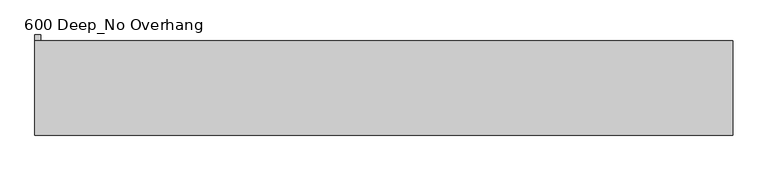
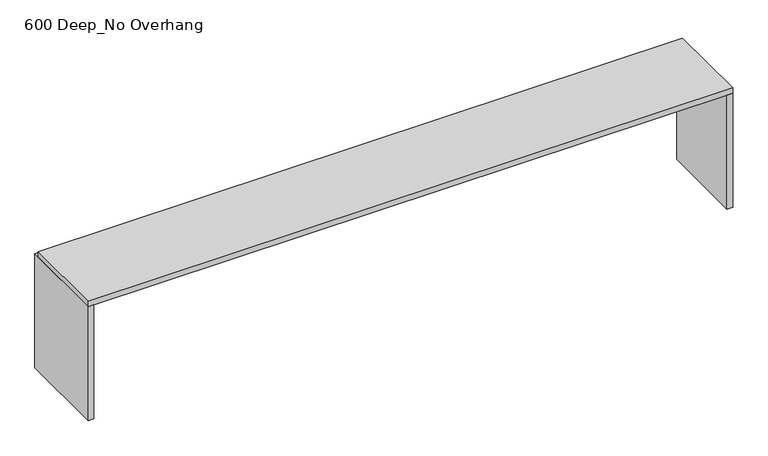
"""IFC4 building model written with IfcOpenShell, lengths in millimetres: furniture geometry, Benchtop_Optional Hole_I Shaped_CAS : 600 Deep_No Overhang."""

from ifc_helpers import new_model, si_unit, frame, origin, origin_with_axes, place, context, project, spatial, polyline, outline, extrude, source, transform, mapped, element, save


def furniture_600_deep_no_overhang_96a87c3f(model_context):
    return source(origin(), model_context, "Body", "SweptSolid", [
        extrude(outline(polyline([(3404.7003264, -619.6034831), (3404.7003264, 0.0), (3444.7003264, 0.0), (3444.7003264, -619.6034831), (3404.7003264, -619.6034831)])), origin_with_axes(), (0.0, 0.0, 1.0), 860.0),
        extrude(outline(polyline([(-1115.2996736, 40.0), (-1115.2996736, -619.6034831), (-1155.2996736, -619.6034831), (-1155.2996736, 40.0), (-1115.2996736, 40.0)])), origin_with_axes(), (0.0, 0.0, 1.0), 860.0),
        extrude(outline(polyline([(3444.7003264, 0.0), (3444.7003264, -619.6034831), (-1155.2996736, -619.6034831), (-1155.2996736, 0.0), (3444.7003264, 0.0)])), frame((0.0, 0.0, 860.0), z_axis=(0.0, 0.0, 1.0), x_axis=(1.0, 0.0, 0.0)), (0.0, 0.0, 1.0), 40.0),
    ])


if __name__ == "__main__":
    model = new_model("IFC4")
    model_context = context("Model", 3, world=origin())
    ifc_project = project(units=[si_unit("LENGTHUNIT", "METRE", prefix="MILLI")], contexts=[model_context])
    site = spatial("IfcSite", under=ifc_project)
    building = spatial("IfcBuilding", under=site)
    placement = place(None, origin())
    furniture_600_deep_no_overhang_shape = furniture_600_deep_no_overhang_96a87c3f(model_context)
    element("IfcFurniture", 1, ObjectType="Benchtop_Optional Hole_I Shaped_CAS : 600 Deep_No Overhang", at=placement, inside=building, context=model_context, shape_type="MappedRepresentation", body=[
        mapped(furniture_600_deep_no_overhang_shape, transform((0.0, 0.0, 0.0), x_axis=(1.0, 0.0, 0.0), y_axis=(0.0, 1.0, 0.0), z_axis=(0.0, 0.0, 1.0))),
    ])
    save(model, "model.ifc")
